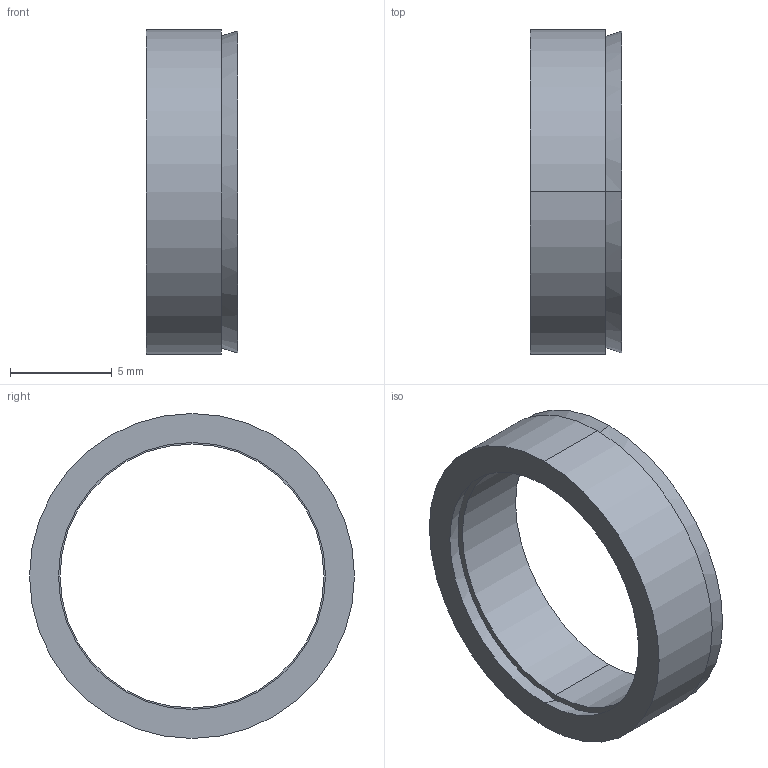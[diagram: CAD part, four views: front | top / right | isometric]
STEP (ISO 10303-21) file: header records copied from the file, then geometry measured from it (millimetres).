
FILE_DESCRIPTION (( 'STEP AP203' ), '1' );
FILE_NAME ('R-13-16.STEP', '2017-11-06T01:34:14', ( 'MYCOM' ), ( '' ), 'SwSTEP 2.0', 'SolidWorks 2015', '' );
FILE_SCHEMA (( 'CONFIG_CONTROL_DESIGN' ));
Length unit declared in the file: millimetre
Products named in the file (1): R-13-16
Bounding box: 4.5 x 16 x 16 mm (x, y, z)
Surface area: 847.5 mm2 (no closed solid volume)
Topology: 0 solids, 2 shells, 12 faces, 24 edges, 16 vertices
Faces by surface type: cylinder 4, cone 4, plane 4
Entity records: 406 total; most frequent: DIRECTION 66, CARTESIAN_POINT 53, ORIENTED_EDGE 48, AXIS2_PLACEMENT_3D 29, EDGE_CURVE 24, CIRCLE 16, EDGE_LOOP 16, VERTEX_POINT 16
